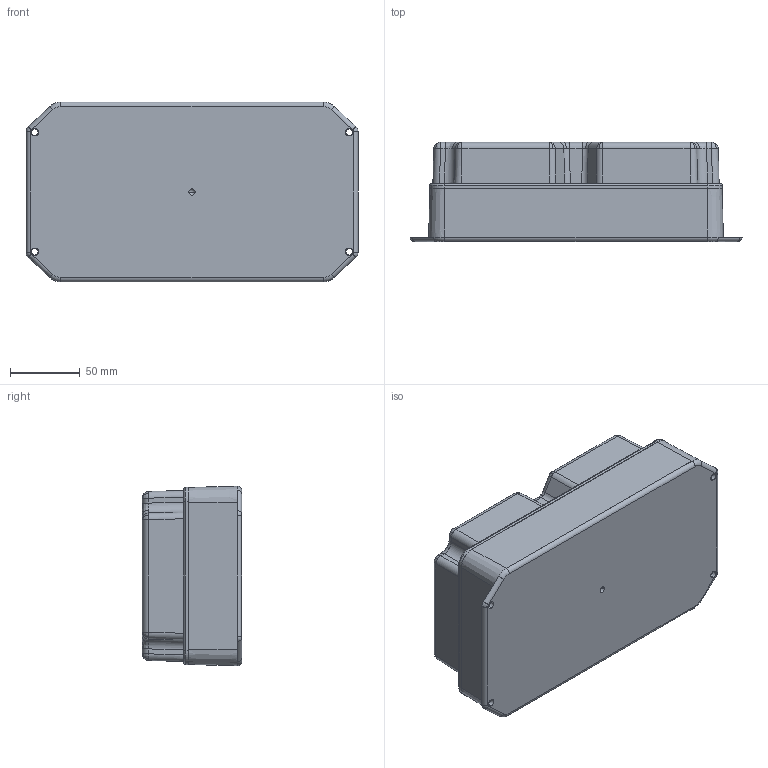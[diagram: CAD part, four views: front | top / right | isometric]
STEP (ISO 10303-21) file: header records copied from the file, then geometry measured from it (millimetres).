
FILE_DESCRIPTION (( 'STEP AP214' ), '1' );
FILE_NAME ('DC-59FMMRG.STEP', '2026-02-11T20:36:58', ( '' ), ( '' ), 'SwSTEP 2.0', 'SolidWorks 2025', '' );
FILE_SCHEMA (( 'AUTOMOTIVE_DESIGN' ));
Length unit declared in the file: inch
Products named in the file (7): DC-57B_DC-57BFMBY; SCREWS-DC2-BR; O-RING; GASKET-58-KIT_GASKET-58-KIT; DC-85C_DC-85CMBR; GASKET; DC-59FMMRG
Assembly tree (16 placements, depth 3):
  DC-59FMMRG
    DC-57B_DC-57BFMBY
    DC-85C_DC-85CMBR
    SCREWS-DC2-BR  x6
    GASKET-58-KIT_GASKET-58-KIT
      GASKET
      O-RING  x6
Bounding box: 238.13 x 71.3 x 128.83 mm (x, y, z)
Volume: 313893.2 mm3; surface area: 217914.2 mm2
Topology: 21 solids, 21 shells, 1026 faces, 2418 edges, 1498 vertices
Faces by surface type: plane 294, cylinder 292, cone 200, bspline 160, torus 64, sphere 16
Entity records: 27747 total; most frequent: CARTESIAN_POINT 8363, DIRECTION 4052, ORIENTED_EDGE 4032, EDGE_CURVE 2016, AXIS2_PLACEMENT_3D 1649, VERTEX_POINT 1248, EDGE_LOOP 988, CIRCLE 918
